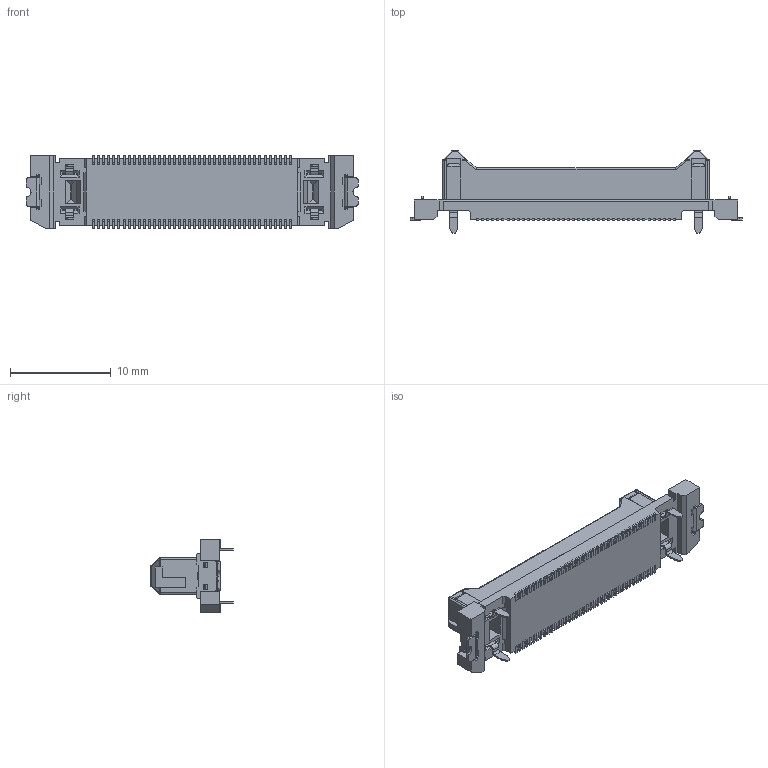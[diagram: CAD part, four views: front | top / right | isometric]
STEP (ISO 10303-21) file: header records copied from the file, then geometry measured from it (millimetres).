
FILE_DESCRIPTION (( 'STEP AP203' ), '1' );
FILE_NAME ('GT-B0505MSV20-80B1201.STEP', '2025-12-31T01:25:09', ( '' ), ( '' ), 'SwSTEP 2.0', 'SolidWorks 2020', '' );
FILE_SCHEMA (( 'CONFIG_CONTROL_DESIGN' ));
Length unit declared in the file: millimetre
Products named in the file (1): GT-B0505MSV20-80B1201
Bounding box: 32.97 x 8.2 x 7.2 mm (x, y, z)
Volume: 507.1 mm3; surface area: 1358.1 mm2
Topology: 1 solids, 1 shells, 4740 faces, 13192 edges, 8476 vertices
Faces by surface type: plane 3857, cylinder 790, bspline 73, sphere 20
Entity records: 152573 total; most frequent: CARTESIAN_POINT 30672, ORIENTED_EDGE 26380, DIRECTION 23894, EDGE_CURVE 13190, LINE 11438, VECTOR 11438, VERTEX_POINT 8476, AXIS2_PLACEMENT_3D 6228
